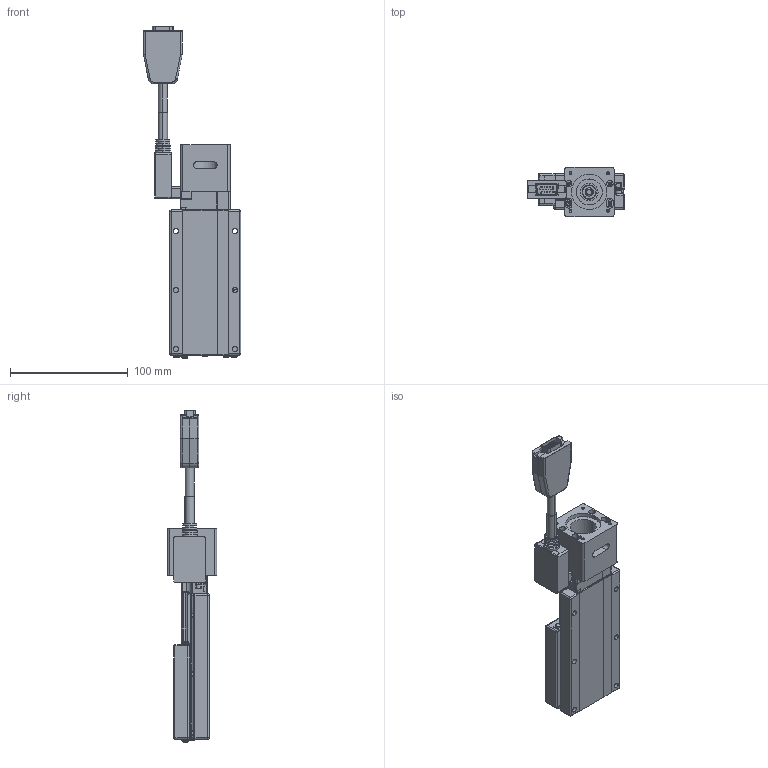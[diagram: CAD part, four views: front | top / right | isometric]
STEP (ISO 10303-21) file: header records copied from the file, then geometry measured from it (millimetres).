
FILE_DESCRIPTION (( 'STEP AP203' ), '1' );
FILE_NAME ('CXS6050(伺服P無馬達).STEP', '2023-12-25T08:31:24', ( '' ), ( '' ), 'SwSTEP 2.0', 'SolidWorks 2019', '' );
FILE_SCHEMA (( 'CONFIG_CONTROL_DESIGN' ));
Length unit declared in the file: millimetre
Products named in the file (6): CXS-H-01; Group2^CXS6050(伺服P無馬達)_defeature_GMT; CXS6050(伺服P無馬達); HR10A-10J-12P; CXS-P_GMT; Group1^CXS6050(伺服P無馬達)_defeature_GMT
Assembly tree (5 placements, depth 2):
  CXS6050(伺服P無馬達)
    Group1^CXS6050(伺服P無馬達)_defeature_GMT
    Group2^CXS6050(伺服P無馬達)_defeature_GMT
    HR10A-10J-12P
    CXS-H-01
    CXS-P_GMT
Bounding box: 82.5 x 42 x 281.5 mm (x, y, z)
Volume: 96067.9 mm3; surface area: 97482.1 mm2
Topology: 7 solids, 14 shells, 2487 faces, 6339 edges, 3986 vertices
Faces by surface type: plane 1342, cylinder 707, bspline 142, cone 140, torus 88, sphere 68
Entity records: 81717 total; most frequent: CARTESIAN_POINT 21051, ORIENTED_EDGE 12558, DIRECTION 12420, EDGE_CURVE 6279, AXIS2_PLACEMENT_3D 4242, VERTEX_POINT 3986, VECTOR 3936, LINE 3936
